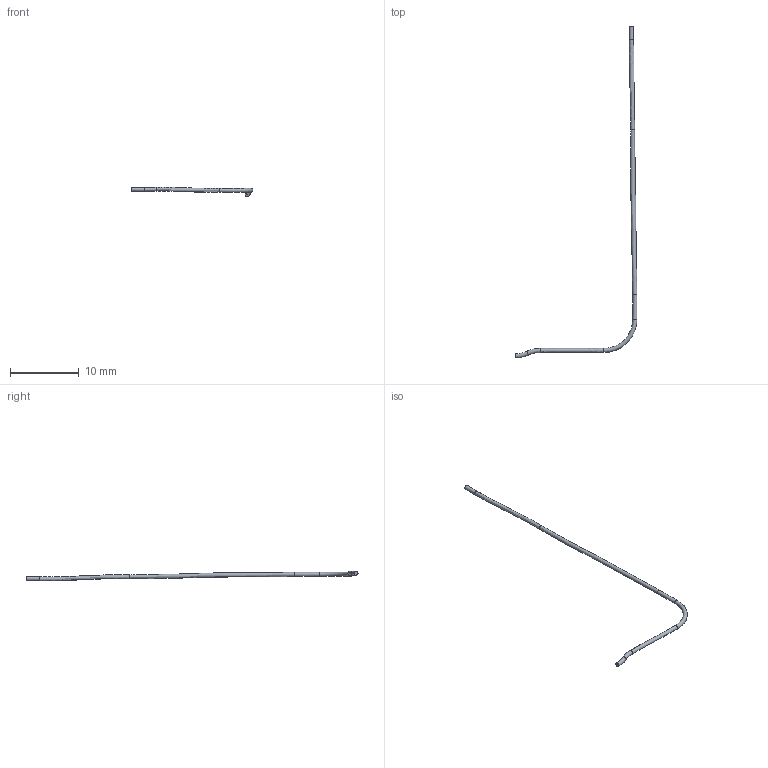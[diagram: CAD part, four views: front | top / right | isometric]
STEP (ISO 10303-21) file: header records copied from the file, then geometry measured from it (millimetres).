
FILE_DESCRIPTION(('FreeCAD Model'),'2;1');
FILE_NAME('Open CASCADE Shape Model','2026-11-12T12:41:57',('FreeCAD'),( 'FreeCAD'),'Open CASCADE STEP processor 7.8','FreeCAD','Unknown');
FILE_SCHEMA(('AUTOMOTIVE_DESIGN { 1 0 10303 214 1 1 1 1 }'));
Length unit declared in the file: millimetre
Products named in the file (1): Open CASCADE STEP translator 7.8 5
Bounding box: 17.73 x 48.34 x 1.41 mm (x, y, z)
Volume: 17.8 mm3; surface area: 119.1 mm2
Topology: 1 solids, 1 shells, 10 faces, 17 edges, 9 vertices
Faces by surface type: bspline 3, torus 3, cylinder 2, plane 2
Full cylindrical faces by diameter (mm): 0.6 x2
Entity records: 2628 total; most frequent: CARTESIAN_POINT 2448, DIRECTION 36, ORIENTED_EDGE 34, AXIS2_PLACEMENT_3D 17, EDGE_CURVE 17, ADVANCED_FACE 10, FACE_BOUND 10, EDGE_LOOP 10
